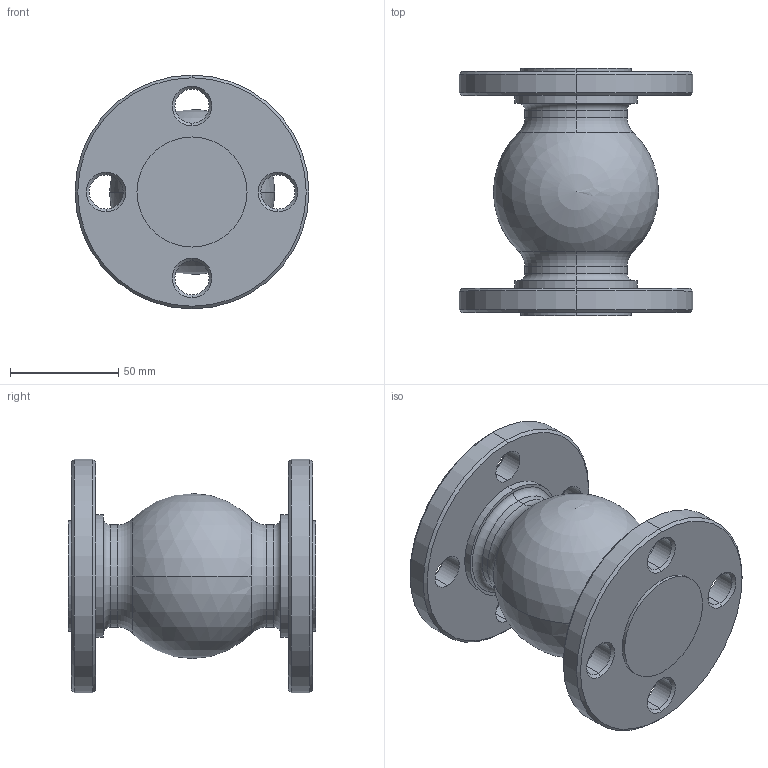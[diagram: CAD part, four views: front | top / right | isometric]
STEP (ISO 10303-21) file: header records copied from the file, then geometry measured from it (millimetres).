
FILE_DESCRIPTION (( 'STEP AP203' ), '1' );
FILE_NAME ('GLC 1 150.step', '2016-07-11T17:58:43', ( '' ), ( '' ), 'SwSTEP 2.0', 'SolidWorks 2015', '' );
FILE_SCHEMA (( 'CONFIG_CONTROL_DESIGN' ));
Length unit declared in the file: inch
Products named in the file (1): GLC 1 150
Bounding box: 107.95 x 114.3 x 107.95 mm (x, y, z)
Volume: 359037.1 mm3; surface area: 86271.4 mm2
Topology: 1 solids, 1 shells, 186 faces, 500 edges, 315 vertices
Faces by surface type: cylinder 75, plane 53, cone 33, torus 21, sphere 4
Entity records: 6161 total; most frequent: CARTESIAN_POINT 1444, DIRECTION 1006, ORIENTED_EDGE 980, EDGE_CURVE 490, AXIS2_PLACEMENT_3D 405, VERTEX_POINT 309, CIRCLE 218, EDGE_LOOP 211
